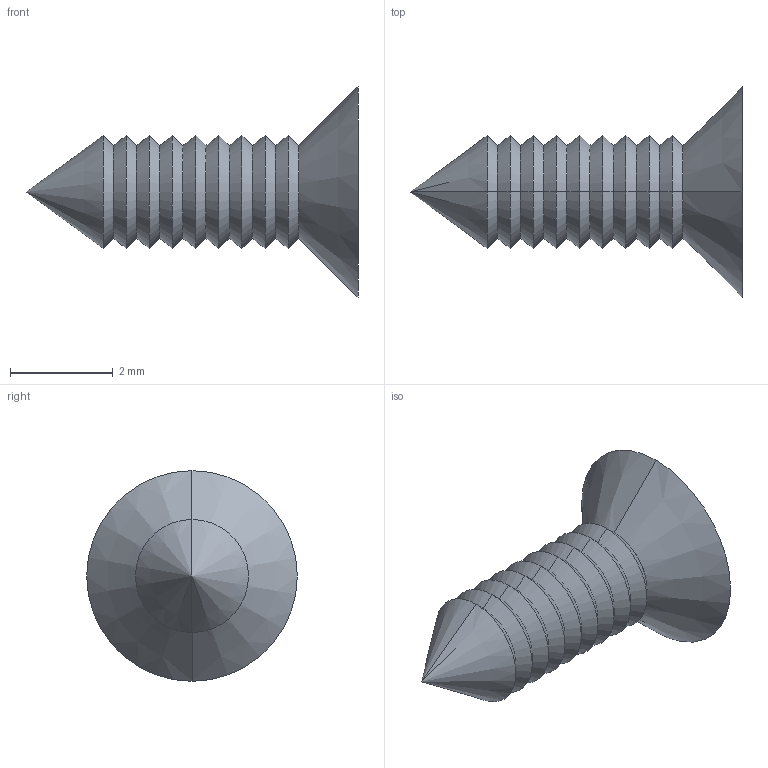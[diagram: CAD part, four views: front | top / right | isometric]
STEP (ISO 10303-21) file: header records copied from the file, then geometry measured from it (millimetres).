
FILE_DESCRIPTION (( 'STEP AP214' ), '1' );
FILE_NAME ('Cargol 2,1x6,5 PP56.STEP', '2016-09-12T18:43:33', ( 'aaa' ), ( '' ), 'SwSTEP 2.0', 'SolidWorks 2013', '' );
FILE_SCHEMA (( 'AUTOMOTIVE_DESIGN' ));
Length unit declared in the file: millimetre
Products named in the file (1): Cargol 2,1x6,5 PP56
Bounding box: 6.46 x 4.1 x 4.1 mm (x, y, z)
Volume: 21.7 mm3; surface area: 69.4 mm2
Topology: 1 solids, 1 shells, 54 faces, 118 edges, 65 vertices
Faces by surface type: cone 38, plane 14, cylinder 2
Entity records: 1458 total; most frequent: DIRECTION 266, CARTESIAN_POINT 236, ORIENTED_EDGE 232, EDGE_CURVE 116, AXIS2_PLACEMENT_3D 95, VECTOR 76, LINE 76, VERTEX_POINT 65
